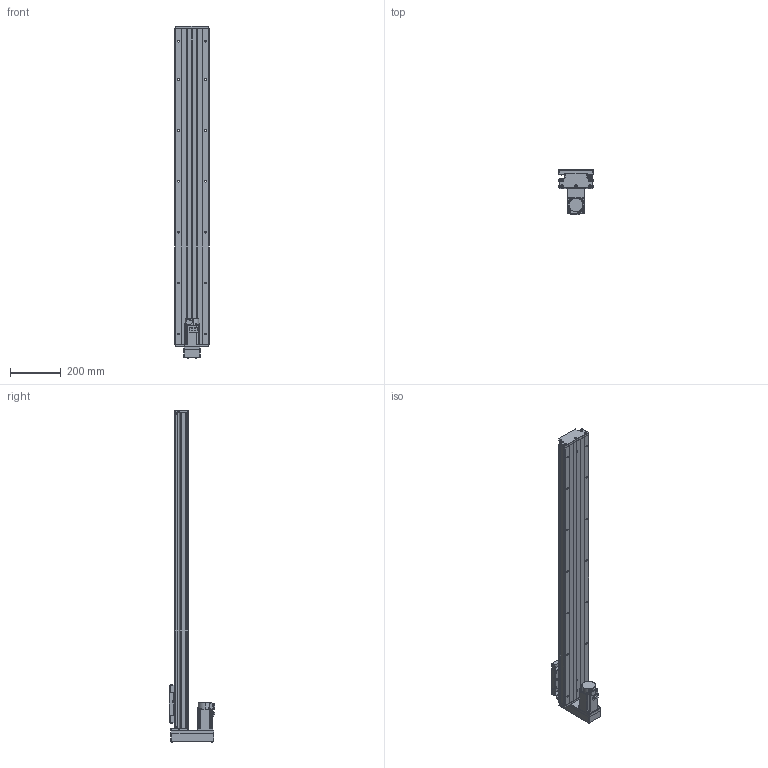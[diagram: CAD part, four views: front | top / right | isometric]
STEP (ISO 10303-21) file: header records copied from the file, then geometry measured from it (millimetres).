
FILE_DESCRIPTION (( 'STEP AP203' ), '1' );
FILE_NAME ('CTH130-1050-BM-M40-C4.step', '2023-06-30T02:42:58', ( '微软用户' ), ( '微软中国' ), 'SwSTEP 2.0', 'SolidWorks 2020', '' );
FILE_SCHEMA (( 'CONFIG_CONTROL_DESIGN' ));
Length unit declared in the file: millimetre
Products named in the file (20): HG-KN43J-S100; GB T308.1-2013-6.35; CTHA60-016; GBT 70.2-M4¡Á35_M4¡Á35; GTH14-004; GBT 70.1-M3℅5; GTH14-015-2_CTHA86-015-2; GTH14-005; GBT77-2000 M3×3; GTH14-033; GB1155-6X6; CTH130-031; CTH130-1050-BM-M40-C4; GBT70.1 M5℅16; GBT 70.2-M3¡Á5_M3¡Á6; GTH14-001_1050; CTHA60-017; す晦芛蹟隊 M3℅5; CTH130-002_GTH14-002; EE_SX911P_R
Assembly tree (60 placements, depth 2):
  CTH130-1050-BM-M40-C4
    GTH14-001_1050
    CTH130-002_GTH14-002
    GB T308.1-2013-6.35  x2
    GTH14-004
    GTH14-005
    GB1155-6X6  x2
    GBT70.1 M5℅16  x10
    CTHA60-017  x3
    EE_SX911P_R  x3
    CTHA60-016  x2
    GBT 70.1-M3℅5  x6
    GBT77-2000 M3×3  x6
    CTH130-031
    GBT 70.2-M3¡Á5_M3¡Á6  x8
    す晦芛蹟隊 M3℅5  x6
    HG-KN43J-S100
    GBT 70.2-M4¡Á35_M4¡Á35  x4
    GTH14-015-2_CTHA86-015-2
    GTH14-033
Bounding box: 135 x 179.8 x 1304.2 mm (x, y, z)
Volume: 6789106.8 mm3; surface area: 1089037.2 mm2
Topology: 63 solids, 63 shells, 2455 faces, 5845 edges, 3617 vertices
Faces by surface type: plane 1314, cylinder 662, cone 299, torus 124, sphere 36, bspline 20
Entity records: 44540 total; most frequent: CARTESIAN_POINT 9947, DIRECTION 6522, ORIENTED_EDGE 6396, EDGE_CURVE 3198, AXIS2_PLACEMENT_3D 2236, LINE 2050, VECTOR 2050, VERTEX_POINT 2027
